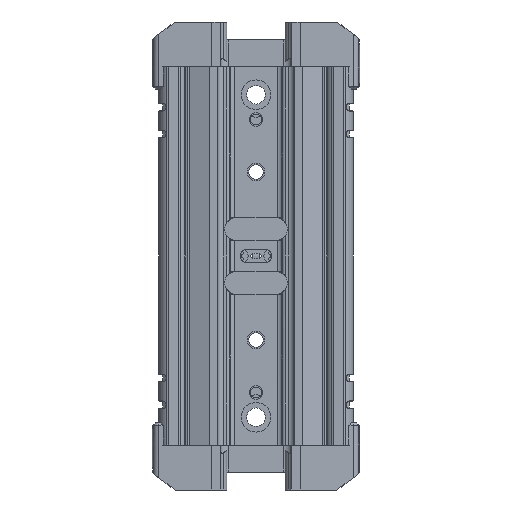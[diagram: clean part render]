
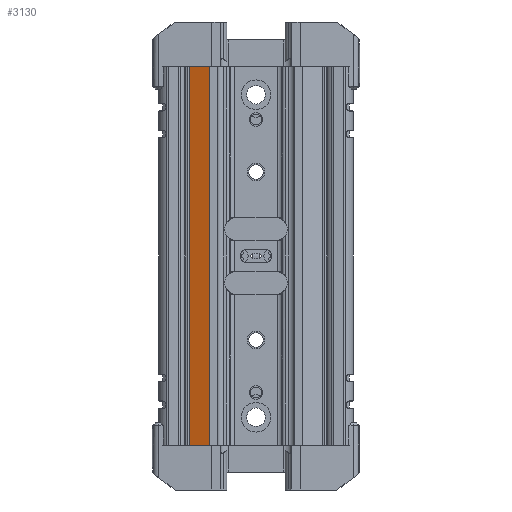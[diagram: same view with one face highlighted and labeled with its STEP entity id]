
A CAD part, front view. The second image highlights one B-rep face of the part: STEP entity #3130.
In plain terms, the highlighted planar face has unit normal (-0.342, -0.94, 0).
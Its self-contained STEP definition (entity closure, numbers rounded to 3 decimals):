
#240=DIRECTION('',(0.94,-0.342,0.));
#241=VECTOR('',#240,10.191);
#242=CARTESIAN_POINT('',(-30.476,-2.515,-84.5));
#243=LINE('',#242,#241);
#330=DIRECTION('',(0.,0.,1.));
#331=VECTOR('',#330,169.);
#332=CARTESIAN_POINT('',(-20.9,-6.,-84.5));
#333=LINE('',#332,#331);
#334=DIRECTION('',(0.,0.,1.));
#335=VECTOR('',#334,169.);
#336=CARTESIAN_POINT('',(-30.476,-2.515,-84.5));
#337=LINE('',#336,#335);
#861=DIRECTION('',(0.94,-0.342,0.));
#862=VECTOR('',#861,10.191);
#863=CARTESIAN_POINT('',(-30.476,-2.515,84.5));
#864=LINE('',#863,#862);
#2336=CARTESIAN_POINT('',(-30.476,-2.515,-84.5));
#2338=VERTEX_POINT('',#2336);
#2339=CARTESIAN_POINT('',(-20.9,-6.,-84.5));
#2340=VERTEX_POINT('',#2339);
#2382=CARTESIAN_POINT('',(-30.476,-2.515,84.5));
#2384=VERTEX_POINT('',#2382);
#2385=CARTESIAN_POINT('',(-20.9,-6.,84.5));
#2386=VERTEX_POINT('',#2385);
#3117=CARTESIAN_POINT('',(-30.476,-2.515,-84.5));
#3118=DIRECTION('',(-0.342,-0.94,0.));
#3119=DIRECTION('',(0.94,-0.342,0.));
#3120=AXIS2_PLACEMENT_3D('',#3117,#3118,#3119);
#3121=PLANE('',#3120);
#3122=ORIENTED_EDGE('',*,*,#2973,.F.);
#3124=ORIENTED_EDGE('',*,*,#3123,.T.);
#3126=ORIENTED_EDGE('',*,*,#3125,.T.);
#3127=ORIENTED_EDGE('',*,*,#3109,.F.);
#3128=EDGE_LOOP('',(#3122,#3124,#3126,#3127));
#3129=FACE_OUTER_BOUND('',#3128,.F.);
#3130=ADVANCED_FACE('',(#3129),#3121,.T.);
#2973=EDGE_CURVE('',#2338,#2340,#243,.T.);
#3109=EDGE_CURVE('',#2340,#2386,#333,.T.);
#3123=EDGE_CURVE('',#2338,#2384,#337,.T.);
#3125=EDGE_CURVE('',#2384,#2386,#864,.T.);
